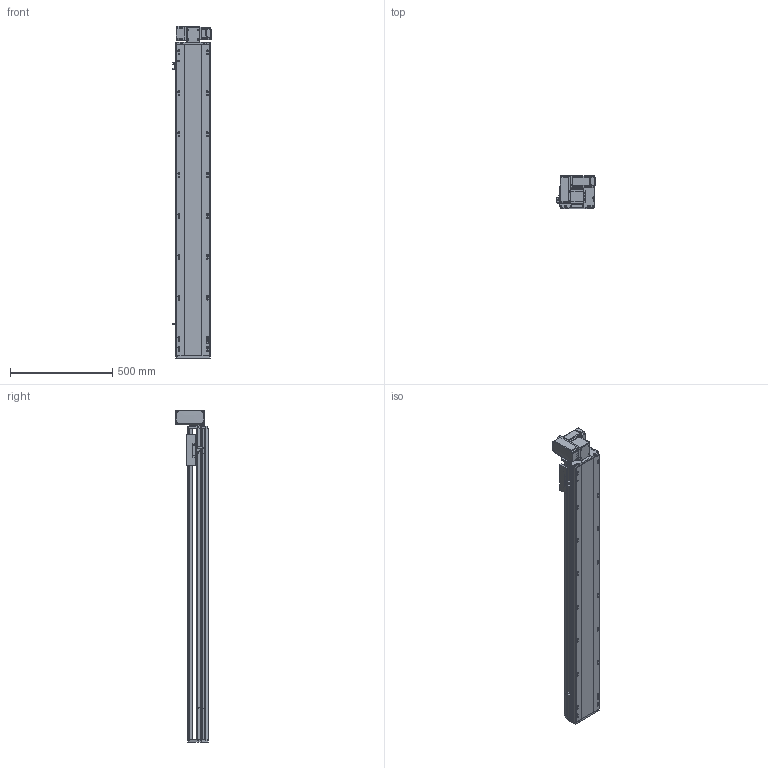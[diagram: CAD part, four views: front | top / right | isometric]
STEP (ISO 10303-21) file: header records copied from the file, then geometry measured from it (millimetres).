
FILE_DESCRIPTION (( 'STEP AP214' ), '1' );
FILE_NAME ('RTB17S-XX-1250-LW-M40-C4.STEP', '2025-12-11T07:06:19', ( '' ), ( '' ), 'SwSTEP 2.0', 'SolidWorks 2018', '' );
FILE_SCHEMA (( 'AUTOMOTIVE_DESIGN' ));
Length unit declared in the file: millimetre
Products named in the file (14): RTB14-L-017P^RTB17S-LW-々湍釱蚾饜-400W_RTB17S-XX-XX-LW-M40-C4; RTB17S-L-001耜醱啣^RTB17S-XX-XX-LW-M40-C4; RTB17S-L-014-T20--々湍釱^RTB17S-LW-々湍釱蚾饜-400W_RTB17S-XX-XX-LW-M40-C4; RTB17S-L-004佪裝蹟譫蟀諉釱^RTB17S-XX-XX-LW-M40-C4; OMRON EE-SX672 传感器^RTB17S-XX-XX-LW-M40-C4; 400W侜督萇儂^RTB17S-XX-XX-LW-M40-C4; RTB14-L-005P--轴承塑胶压盖^RTB17S-LW-皮带座装配-400W_RTB17S-XX-XX-LW-M40-C4; RTB17S-XX-1250-LW-M40-C4; RTB17-R-011菁釱^RTB17S-XX-XX-LW-M40-C4; RTB14-L-018P^RTB17S-LW-々湍釱蚾饜-400W_RTB17S-XX-XX-LW-M40-C4; RTH13-BL-012覜茼え俋离^RTB17S-XX-XX-LW-M40-C4; RTB17S-LW-々湍釱蚾饜-400W^RTB17S-XX-XX-LW-M40-C4; RTB17S-L-007奻裔^RTB17S-XX-XX-LW-M40-C4; RTB14-L-008-M20--萇儂啣^RTB17S-LW-々湍釱蚾饜-400W_RTB17S-XX-XX-LW-M40-C4
Assembly tree (16 placements, depth 3):
  RTB17S-XX-1250-LW-M40-C4
    RTB17-R-011菁釱^RTB17S-XX-XX-LW-M40-C4
    RTB17S-L-007奻裔^RTB17S-XX-XX-LW-M40-C4
    OMRON EE-SX672 传感器^RTB17S-XX-XX-LW-M40-C4  x3
    RTB17S-L-001耜醱啣^RTB17S-XX-XX-LW-M40-C4
    400W侜督萇儂^RTB17S-XX-XX-LW-M40-C4
    RTB17S-L-004佪裝蹟譫蟀諉釱^RTB17S-XX-XX-LW-M40-C4
    RTH13-BL-012覜茼え俋离^RTB17S-XX-XX-LW-M40-C4
    RTB17S-LW-々湍釱蚾饜-400W^RTB17S-XX-XX-LW-M40-C4
      RTB17S-L-014-T20--々湍釱^RTB17S-LW-々湍釱蚾饜-400W_RTB17S-XX-XX-LW-M40-C4
      RTB14-L-005P--轴承塑胶压盖^RTB17S-LW-皮带座装配-400W_RTB17S-XX-XX-LW-M40-C4
      RTB14-L-008-M20--萇儂啣^RTB17S-LW-々湍釱蚾饜-400W_RTB17S-XX-XX-LW-M40-C4
      RTB14-L-017P^RTB17S-LW-々湍釱蚾饜-400W_RTB17S-XX-XX-LW-M40-C4  x2
      RTB14-L-018P^RTB17S-LW-々湍釱蚾饜-400W_RTB17S-XX-XX-LW-M40-C4
Bounding box: 186 x 160.5 x 1622.5 mm (x, y, z)
Volume: 14407850.3 mm3; surface area: 1722186.3 mm2
Topology: 15 solids, 15 shells, 2237 faces, 6195 edges, 4041 vertices
Faces by surface type: plane 1072, cylinder 717, bspline 301, cone 139, torus 8
Entity records: 64169 total; most frequent: CARTESIAN_POINT 18000, ORIENTED_EDGE 9234, DIRECTION 8576, EDGE_CURVE 4617, VERTEX_POINT 3029, AXIS2_PLACEMENT_3D 2959, LINE 2658, VECTOR 2658
